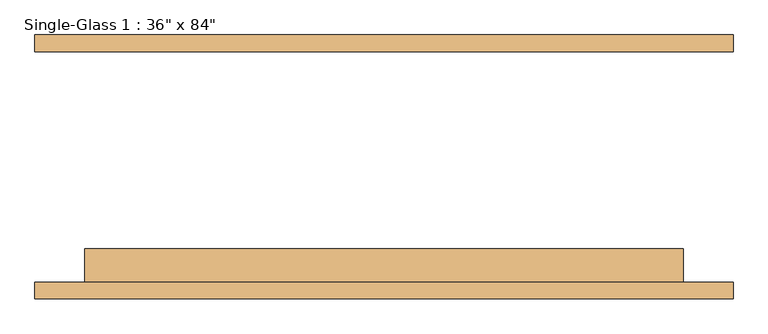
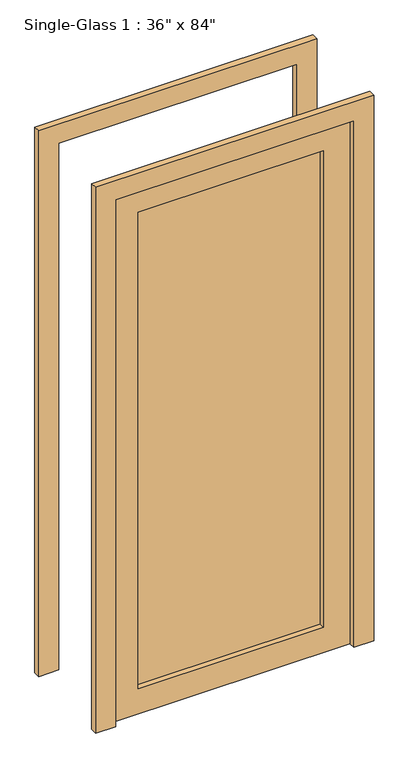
"""IFC4 building model written with IfcOpenShell, lengths in millimetres: door geometry."""

from ifc_helpers import new_model, si_unit, frame, origin, place, context, project, spatial, polyline, outline, extrude, source, transform, mapped, element, save


def door_2118299b(model_context):
    return source(origin(), model_context, "Body", "SweptSolid", [
        extrude(outline(polyline([(2133.6, 457.2), (0.0, 457.2), (0.0, 533.4), (2209.8, 533.4), (2209.8, -533.4), (0.0, -533.4), (0.0, -457.2), (2133.6, -457.2), (2133.6, 457.2)])), frame((0.0, 176.2125, 0.0), z_axis=(0.0, 1.0, 0.0), x_axis=(0.0, 0.0, 1.0)), (0.0, 0.0, 1.0), 25.4),
        extrude(outline(polyline([(2133.6, 457.2), (0.0, 457.2), (0.0, 533.4), (2209.8, 533.4), (2209.8, -533.4), (0.0, -533.4), (0.0, -457.2), (2133.6, -457.2), (2133.6, 457.2)])), frame((0.0, -201.6125, 0.0), z_axis=(0.0, 1.0, 0.0), x_axis=(0.0, 0.0, 1.0)), (0.0, 0.0, 1.0), 25.4),
        extrude(outline(polyline([(355.6, -147.6375), (355.6, -153.9875), (-355.6, -153.9875), (-355.6, -147.6375), (355.6, -147.6375)])), frame((0.0, 0.0, 101.6), z_axis=(0.0, 0.0, 1.0), x_axis=(1.0, 0.0, 0.0)), (0.0, 0.0, 1.0), 1930.4),
        extrude(outline(polyline([(2133.6, 457.2), (2133.6, -457.2), (0.0, -457.2), (0.0, 457.2), (2133.6, 457.2)]), holes=[polyline([(2032.0, -355.6), (2032.0, 355.6), (101.6, 355.6), (101.6, -355.6), (2032.0, -355.6)])]), frame((0.0, -176.2125, 0.0), z_axis=(0.0, 1.0, 0.0), x_axis=(0.0, 0.0, 1.0)), (0.0, 0.0, 1.0), 50.8),
    ])


if __name__ == "__main__":
    model = new_model("IFC4")
    model_context = context("Model", 3, world=origin())
    ifc_project = project(units=[si_unit("LENGTHUNIT", "METRE", prefix="MILLI")], contexts=[model_context])
    site = spatial("IfcSite", under=ifc_project)
    building = spatial("IfcBuilding", under=site)
    placement = place(None, origin())
    door_shape = door_2118299b(model_context)
    element("IfcDoor", 1, ObjectType="Single-Glass 1 : 36\" x 84\"", at=placement, inside=building, context=model_context, shape_type="MappedRepresentation", body=[
        mapped(door_shape, transform((0.0, 0.0, 0.0), x_axis=(1.0, 0.0, 0.0), y_axis=(0.0, 1.0, 0.0), z_axis=(0.0, 0.0, 1.0))),
    ])
    save(model, "model.ifc")
